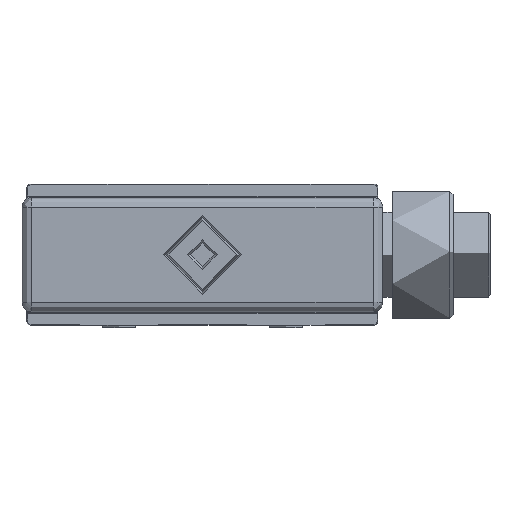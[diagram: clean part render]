
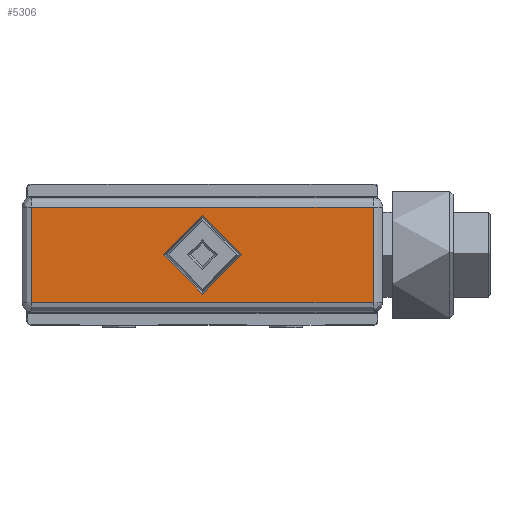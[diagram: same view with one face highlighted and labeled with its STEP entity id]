
A CAD part, front view. The second image highlights one B-rep face of the part: STEP entity #5306.
In plain terms, the highlighted planar face has unit normal (0, -1, 0).
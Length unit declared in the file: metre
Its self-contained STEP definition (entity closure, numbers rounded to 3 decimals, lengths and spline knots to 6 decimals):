
#5051=CARTESIAN_POINT('',(-0.042511,-0.033251,0.118941));
#5052=VERTEX_POINT('',#5051);
#5079=CARTESIAN_POINT('',(-0.042511,-0.033251,0.063741));
#5080=DIRECTION('',(0.,0.,1.));
#5081=VECTOR('',#5080,1.);
#5082=LINE('',#5079,#5081);
#5083=CARTESIAN_POINT('',(-0.042511,-0.033251,0.133441));
#5084=VERTEX_POINT('',#5083);
#5085=EDGE_CURVE('',#5052,#5084,#5082,.T.);
#5166=CARTESIAN_POINT('',(-0.044011,-0.033251,0.063741));
#5167=DIRECTION('',(0.,1.,0.));
#5168=DIRECTION('',(0.,0.,1.));
#5169=AXIS2_PLACEMENT_3D('',#5166,#5167,#5168);
#5170=PLANE('',#5169);
#5258=CARTESIAN_POINT('',(-0.016511,-0.033251,0.126191));
#5259=DIRECTION('',(0.,-1.,0.));
#5260=DIRECTION('',(0.,0.,-1.));
#5261=AXIS2_PLACEMENT_3D('',#5258,#5259,#5260);
#5262=CIRCLE('',#5261,0.006);
#5263=CARTESIAN_POINT('',(-0.016511,-0.033251,0.132191));
#5264=VERTEX_POINT('',#5263);
#5265=EDGE_CURVE('',#5264,#5264,#5262,.T.);
#5278=ORIENTED_EDGE('',*,*,#5265,.F.);
#5279=EDGE_LOOP('',(#5278));
#5280=FACE_BOUND('',#5279,.T.);
#5281=CARTESIAN_POINT('',(-0.044011,-0.033251,0.133441));
#5282=DIRECTION('',(1.,0.,0.));
#5283=VECTOR('',#5282,1.);
#5284=LINE('',#5281,#5283);
#5285=CARTESIAN_POINT('',(0.009489,-0.033251,0.133441));
#5286=VERTEX_POINT('',#5285);
#5287=EDGE_CURVE('',#5084,#5286,#5284,.T.);
#5288=ORIENTED_EDGE('',*,*,#5287,.F.);
#5289=ORIENTED_EDGE('',*,*,#5085,.F.);
#5290=CARTESIAN_POINT('',(-0.044011,-0.033251,0.118941));
#5291=DIRECTION('',(1.,0.,0.));
#5292=VECTOR('',#5291,1.);
#5293=LINE('',#5290,#5292);
#5294=CARTESIAN_POINT('',(0.009489,-0.033251,0.118941));
#5295=VERTEX_POINT('',#5294);
#5296=EDGE_CURVE('',#5052,#5295,#5293,.T.);
#5297=ORIENTED_EDGE('',*,*,#5296,.T.);
#5298=CARTESIAN_POINT('',(0.009489,-0.033251,0.063741));
#5299=DIRECTION('',(0.,0.,-1.));
#5300=VECTOR('',#5299,1.);
#5301=LINE('',#5298,#5300);
#5302=EDGE_CURVE('',#5286,#5295,#5301,.T.);
#5303=ORIENTED_EDGE('',*,*,#5302,.F.);
#5304=EDGE_LOOP('',(#5288,#5289,#5297,#5303));
#5305=FACE_BOUND('',#5304,.T.);
#5306=ADVANCED_FACE('',(#5280,#5305),#5170,.F.);
